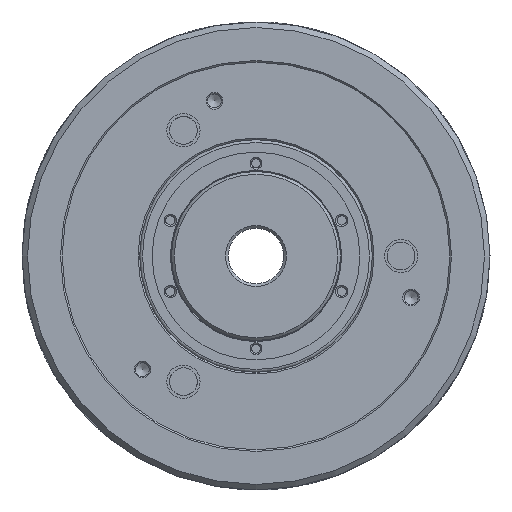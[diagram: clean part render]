
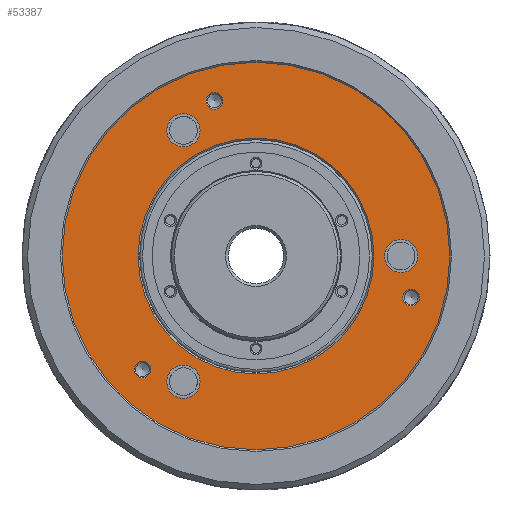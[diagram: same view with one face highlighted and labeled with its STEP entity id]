
A CAD part, left-side view. The second image highlights one B-rep face of the part: STEP entity #53387.
In plain terms, the highlighted planar face has unit normal (-1, 0, 0).
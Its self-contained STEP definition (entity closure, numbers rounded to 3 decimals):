
#983 = AXIS2_PLACEMENT_3D ( 'NONE', #39454, #16318, #47956 ) ;
#1602 = PLANE ( 'NONE',  #57902 ) ;
#3678 = DIRECTION ( 'NONE',  ( 0., 0., -1. ) ) ;
#4516 = DIRECTION ( 'NONE',  ( 0., 0., 1. ) ) ;
#5185 = CARTESIAN_POINT ( 'NONE',  ( -80., 0., -42.6 ) ) ;
#5862 = DIRECTION ( 'NONE',  ( 1., 0., 0. ) ) ;
#6215 = EDGE_LOOP ( 'NONE', ( #50923 ) ) ;
#6373 = CARTESIAN_POINT ( 'NONE',  ( -80., 15.012, 56.024 ) ) ;
#7292 = ORIENTED_EDGE ( 'NONE', *, *, #7590, .F. ) ;
#7590 = EDGE_CURVE ( 'NONE', #14504, #14504, #26666, .T. ) ;
#7699 = FACE_BOUND ( 'NONE', #48067, .T. ) ;
#7700 = CARTESIAN_POINT ( 'NONE',  ( -80., 26.2, 45.38 ) ) ;
#8068 = CIRCLE ( 'NONE', #35406, 3.025 ) ;
#8249 = EDGE_LOOP ( 'NONE', ( #24148 ) ) ;
#8816 = CARTESIAN_POINT ( 'NONE',  ( -80., 15.012, 59.049 ) ) ;
#9345 = VERTEX_POINT ( 'NONE', #22073 ) ;
#9926 = CARTESIAN_POINT ( 'NONE',  ( -80., -56.024, -15.012 ) ) ;
#10490 = CARTESIAN_POINT ( 'NONE',  ( -80., -52.4, 0. ) ) ;
#10596 = FACE_OUTER_BOUND ( 'NONE', #19412, .T. ) ;
#11062 = DIRECTION ( 'NONE',  ( 0., 0., 1. ) ) ;
#11256 = CARTESIAN_POINT ( 'NONE',  ( -80., 0., -70. ) ) ;
#12172 = VERTEX_POINT ( 'NONE', #42227 ) ;
#12490 = AXIS2_PLACEMENT_3D ( 'NONE', #47218, #19593, #37944 ) ;
#12962 = ORIENTED_EDGE ( 'NONE', *, *, #41083, .F. ) ;
#14178 = FACE_BOUND ( 'NONE', #54736, .T. ) ;
#14504 = VERTEX_POINT ( 'NONE', #11256 ) ;
#14832 = EDGE_LOOP ( 'NONE', ( #44193 ) ) ;
#15509 = DIRECTION ( 'NONE',  ( -1., 0., 0. ) ) ;
#16318 = DIRECTION ( 'NONE',  ( -1., 0., 0. ) ) ;
#16412 = DIRECTION ( 'NONE',  ( -1., 0., 0. ) ) ;
#17094 = AXIS2_PLACEMENT_3D ( 'NONE', #7700, #20939, #29790 ) ;
#18678 = CARTESIAN_POINT ( 'NONE',  ( -80., -56.024, -11.987 ) ) ;
#19189 = FACE_BOUND ( 'NONE', #24685, .T. ) ;
#19412 = EDGE_LOOP ( 'NONE', ( #7292 ) ) ;
#19593 = DIRECTION ( 'NONE',  ( 1., 0., 0. ) ) ;
#20496 = CIRCLE ( 'NONE', #41473, 6. ) ;
#20683 = CIRCLE ( 'NONE', #17094, 6. ) ;
#20711 = CIRCLE ( 'NONE', #45075, 6. ) ;
#20939 = DIRECTION ( 'NONE',  ( -1., 0., 0. ) ) ;
#21354 = FACE_BOUND ( 'NONE', #14832, .T. ) ;
#22073 = CARTESIAN_POINT ( 'NONE',  ( -80., 26.2, -39.38 ) ) ;
#22679 = CARTESIAN_POINT ( 'NONE',  ( -80., 41.012, -37.987 ) ) ;
#24148 = ORIENTED_EDGE ( 'NONE', *, *, #32993, .F. ) ;
#24685 = EDGE_LOOP ( 'NONE', ( #44747 ) ) ;
#26347 = FACE_BOUND ( 'NONE', #8249, .T. ) ;
#26666 = CIRCLE ( 'NONE', #12490, 70. ) ;
#27382 = DIRECTION ( 'NONE',  ( -1., 0., 0. ) ) ;
#27919 = EDGE_CURVE ( 'NONE', #9345, #9345, #20711, .T. ) ;
#28514 = FACE_BOUND ( 'NONE', #54512, .T. ) ;
#29790 = DIRECTION ( 'NONE',  ( 0., -0.866, -0.5 ) ) ;
#31383 = FACE_BOUND ( 'NONE', #6215, .T. ) ;
#32194 = AXIS2_PLACEMENT_3D ( 'NONE', #59653, #59257, #3678 ) ;
#32993 = EDGE_CURVE ( 'NONE', #56232, #56232, #20683, .T. ) ;
#33074 = VERTEX_POINT ( 'NONE', #18678 ) ;
#33634 = DIRECTION ( 'NONE',  ( 0., 0.866, 0.5 ) ) ;
#35138 = ORIENTED_EDGE ( 'NONE', *, *, #59119, .F. ) ;
#35406 = AXIS2_PLACEMENT_3D ( 'NONE', #9926, #27382, #4516 ) ;
#37944 = DIRECTION ( 'NONE',  ( 0., 0., -1. ) ) ;
#38572 = DIRECTION ( 'NONE',  ( -1., 0., 0. ) ) ;
#38610 = CIRCLE ( 'NONE', #50242, 3.025 ) ;
#39454 = CARTESIAN_POINT ( 'NONE',  ( -80., 41.012, -41.012 ) ) ;
#39551 = VERTEX_POINT ( 'NONE', #5185 ) ;
#41083 = EDGE_CURVE ( 'NONE', #43943, #43943, #56952, .T. ) ;
#41473 = AXIS2_PLACEMENT_3D ( 'NONE', #10490, #5862, #33634 ) ;
#42227 = CARTESIAN_POINT ( 'NONE',  ( -80., -47.204, 3. ) ) ;
#43214 = DIRECTION ( 'NONE',  ( 0., 0., 1. ) ) ;
#43943 = VERTEX_POINT ( 'NONE', #22679 ) ;
#44193 = ORIENTED_EDGE ( 'NONE', *, *, #56850, .T. ) ;
#44747 = ORIENTED_EDGE ( 'NONE', *, *, #27919, .F. ) ;
#45075 = AXIS2_PLACEMENT_3D ( 'NONE', #48060, #16412, #52875 ) ;
#46539 = ORIENTED_EDGE ( 'NONE', *, *, #57055, .T. ) ;
#47218 = CARTESIAN_POINT ( 'NONE',  ( -80., 0., 0. ) ) ;
#47943 = CIRCLE ( 'NONE', #32194, 42.6 ) ;
#47956 = DIRECTION ( 'NONE',  ( 0., 0., 1. ) ) ;
#48060 = CARTESIAN_POINT ( 'NONE',  ( -80., 26.2, -45.38 ) ) ;
#48067 = EDGE_LOOP ( 'NONE', ( #35138 ) ) ;
#49702 = VERTEX_POINT ( 'NONE', #8816 ) ;
#50242 = AXIS2_PLACEMENT_3D ( 'NONE', #6373, #38572, #43214 ) ;
#50923 = ORIENTED_EDGE ( 'NONE', *, *, #53734, .F. ) ;
#52763 = CARTESIAN_POINT ( 'NONE',  ( -80., 35., -60.622 ) ) ;
#52875 = DIRECTION ( 'NONE',  ( 0., 0., 1. ) ) ;
#53387 = ADVANCED_FACE ( 'NONE', ( #31383, #7699, #28514, #21354, #10596, #14178, #26347, #19189 ), #1602, .T. ) ;
#53734 = EDGE_CURVE ( 'NONE', #49702, #49702, #38610, .T. ) ;
#54512 = EDGE_LOOP ( 'NONE', ( #12962 ) ) ;
#54736 = EDGE_LOOP ( 'NONE', ( #46539 ) ) ;
#56232 = VERTEX_POINT ( 'NONE', #58396 ) ;
#56850 = EDGE_CURVE ( 'NONE', #39551, #39551, #47943, .T. ) ;
#56952 = CIRCLE ( 'NONE', #983, 3.025 ) ;
#57055 = EDGE_CURVE ( 'NONE', #12172, #12172, #20496, .T. ) ;
#57902 = AXIS2_PLACEMENT_3D ( 'NONE', #52763, #15509, #11062 ) ;
#58396 = CARTESIAN_POINT ( 'NONE',  ( -80., 21.004, 42.38 ) ) ;
#59119 = EDGE_CURVE ( 'NONE', #33074, #33074, #8068, .T. ) ;
#59257 = DIRECTION ( 'NONE',  ( 1., 0., 0. ) ) ;
#59653 = CARTESIAN_POINT ( 'NONE',  ( -80., 0., 0. ) ) ;
